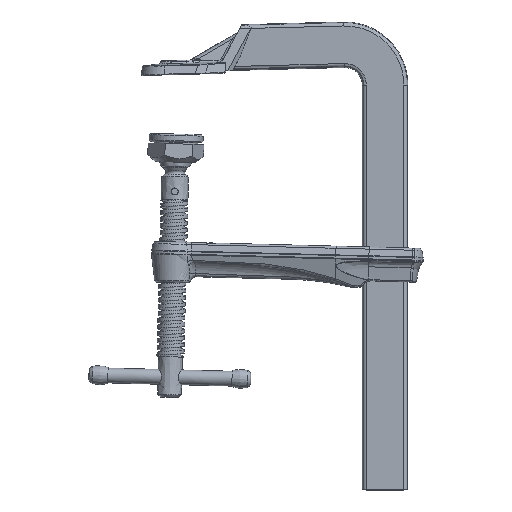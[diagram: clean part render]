
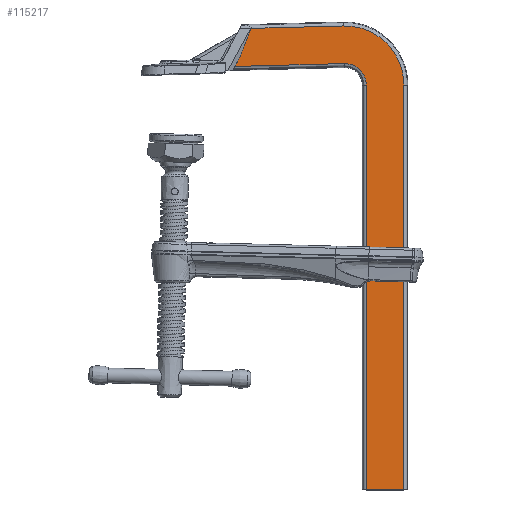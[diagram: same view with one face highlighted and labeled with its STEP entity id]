
A CAD part, front view. The second image highlights one B-rep face of the part: STEP entity #115217.
In plain terms, the highlighted free-form (B-spline) face has degree [1, 1] with [2, 2] control points.
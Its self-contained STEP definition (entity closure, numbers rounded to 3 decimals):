
#114976=CARTESIAN_POINT('',(-72.746,-6.294,9.385));
#114977=VERTEX_POINT('',#114976);
#114987=CARTESIAN_POINT('',(8.439,-6.294,11.511));
#114988=VERTEX_POINT('',#114987);
#114989=CARTESIAN_POINT('',(-72.746,-6.294,9.385));
#114990=CARTESIAN_POINT('',(8.439,-6.294,11.511));
#114991=B_SPLINE_CURVE_WITH_KNOTS('',1,(#114989,#114990),.POLYLINE_FORM.,.F.,.U.,(2,2),(0.234,0.864),.UNSPECIFIED.);
#114992=EDGE_CURVE('',#114977,#114988,#114991,.T.);
#115150=CARTESIAN_POINT('',(269.028,-6.294,-443.376));
#115151=CARTESIAN_POINT('',(-264.811,-6.294,-457.355));
#115152=CARTESIAN_POINT('',(255.049,-6.294,90.463));
#115153=CARTESIAN_POINT('',(-278.79,-6.294,76.484));
#115154=B_SPLINE_SURFACE_WITH_KNOTS('',1,1,((#115150,#115151),(#115152,#115153)),.PLANE_SURF.,.F.,.F.,.U.,(2,2),(2,2),(0.,1.),(0.,1.),.UNSPECIFIED.);
#115155=CARTESIAN_POINT('',(-60.681,-6.294,37.579));
#115156=VERTEX_POINT('',#115155);
#115157=CARTESIAN_POINT('',(-68.764,-6.294,16.719));
#115158=VERTEX_POINT('',#115157);
#115159=CARTESIAN_POINT('',(-60.681,-6.294,37.579));
#115160=CARTESIAN_POINT('',(-64.722,-6.294,27.149));
#115161=CARTESIAN_POINT('',(-68.764,-6.294,16.719));
#115162=B_SPLINE_CURVE_WITH_KNOTS('',2,(#115159,#115160,#115161),.UNSPECIFIED.,.F.,.U.,(3,3),(0.,0.995),.UNSPECIFIED.);
#115163=EDGE_CURVE('',#115156,#115158,#115162,.T.);
#115164=ORIENTED_EDGE('',*,*,#115163,.T.);
#115165=CARTESIAN_POINT('',(-68.764,-6.294,16.719));
#115166=CARTESIAN_POINT('',(-72.746,-6.294,9.385));
#115167=B_SPLINE_CURVE_WITH_KNOTS('',1,(#115165,#115166),.POLYLINE_FORM.,.F.,.U.,(2,2),(0.241,0.326),.UNSPECIFIED.);
#115168=EDGE_CURVE('',#115158,#114977,#115167,.T.);
#115169=ORIENTED_EDGE('',*,*,#115168,.T.);
#115170=ORIENTED_EDGE('',*,*,#114992,.T.);
#115171=CARTESIAN_POINT('',(24.795,-6.294,-4.422));
#115172=VERTEX_POINT('',#115171);
#115173=CARTESIAN_POINT('',(8.439,-6.294,11.511));
#115174=CARTESIAN_POINT('',(24.795,-6.294,11.939));
#115175=CARTESIAN_POINT('',(24.795,-6.294,-4.422));
#115176=(BOUNDED_CURVE()B_SPLINE_CURVE(2,(#115173,#115174,#115175),.CIRCULAR_ARC.,.F.,.U.)B_SPLINE_CURVE_WITH_KNOTS((3,3),(0.,1.),.UNSPECIFIED.)CURVE()GEOMETRIC_REPRESENTATION_ITEM()RATIONAL_B_SPLINE_CURVE((1.,0.698,1.))REPRESENTATION_ITEM(''));
#115177=EDGE_CURVE('',#114988,#115172,#115176,.T.);
#115178=ORIENTED_EDGE('',*,*,#115177,.T.);
#115179=CARTESIAN_POINT('',(24.795,-6.294,-304.422));
#115180=VERTEX_POINT('',#115179);
#115181=CARTESIAN_POINT('',(24.795,-6.294,-4.422));
#115182=CARTESIAN_POINT('',(24.795,-6.294,-304.422));
#115183=B_SPLINE_CURVE_WITH_KNOTS('',1,(#115181,#115182),.POLYLINE_FORM.,.F.,.U.,(2,2),(0.,0.75),.UNSPECIFIED.);
#115184=EDGE_CURVE('',#115172,#115180,#115183,.T.);
#115185=ORIENTED_EDGE('',*,*,#115184,.T.);
#115186=CARTESIAN_POINT('',(52.663,-6.294,-304.422));
#115187=VERTEX_POINT('',#115186);
#115188=CARTESIAN_POINT('',(24.795,-6.294,-304.422));
#115189=CARTESIAN_POINT('',(52.663,-6.294,-304.422));
#115190=B_SPLINE_CURVE_WITH_KNOTS('',1,(#115188,#115189),.POLYLINE_FORM.,.F.,.U.,(2,2),(0.,1.),.UNSPECIFIED.);
#115191=EDGE_CURVE('',#115180,#115187,#115190,.T.);
#115192=ORIENTED_EDGE('',*,*,#115191,.T.);
#115193=CARTESIAN_POINT('',(52.663,-6.294,-4.422));
#115194=VERTEX_POINT('',#115193);
#115195=CARTESIAN_POINT('',(52.663,-6.294,-304.422));
#115196=CARTESIAN_POINT('',(52.663,-6.294,-4.422));
#115197=B_SPLINE_CURVE_WITH_KNOTS('',1,(#115195,#115196),.POLYLINE_FORM.,.F.,.U.,(2,2),(0.25,1.),.UNSPECIFIED.);
#115198=EDGE_CURVE('',#115187,#115194,#115197,.T.);
#115199=ORIENTED_EDGE('',*,*,#115198,.T.);
#115200=CARTESIAN_POINT('',(7.71,-6.294,39.369));
#115201=VERTEX_POINT('',#115200);
#115202=CARTESIAN_POINT('',(52.663,-6.294,-4.422));
#115203=CARTESIAN_POINT('',(52.663,-6.294,14.06));
#115204=CARTESIAN_POINT('',(39.424,-6.294,26.957));
#115205=CARTESIAN_POINT('',(26.186,-6.294,39.853));
#115206=CARTESIAN_POINT('',(7.71,-6.294,39.369));
#115207=(BOUNDED_CURVE()B_SPLINE_CURVE(2,(#115202,#115203,#115204,#115205,#115206),.CIRCULAR_ARC.,.F.,.U.)B_SPLINE_CURVE_WITH_KNOTS((3,2,3),(0.,0.5,1.),.UNSPECIFIED.)CURVE()GEOMETRIC_REPRESENTATION_ITEM()RATIONAL_B_SPLINE_CURVE((1.,0.921,1.,0.921,1.))REPRESENTATION_ITEM(''));
#115208=EDGE_CURVE('',#115194,#115201,#115207,.T.);
#115209=ORIENTED_EDGE('',*,*,#115208,.T.);
#115210=CARTESIAN_POINT('',(7.71,-6.294,39.369));
#115211=CARTESIAN_POINT('',(-60.681,-6.294,37.579));
#115212=B_SPLINE_CURVE_WITH_KNOTS('',1,(#115210,#115211),.POLYLINE_FORM.,.F.,.U.,(2,2),(0.466,0.594),.UNSPECIFIED.);
#115213=EDGE_CURVE('',#115201,#115156,#115212,.T.);
#115214=ORIENTED_EDGE('',*,*,#115213,.T.);
#115215=EDGE_LOOP('',(#115164,#115169,#115170,#115178,#115185,#115192,#115199,#115209,#115214));
#115216=FACE_OUTER_BOUND('',#115215,.T.);
#115217=ADVANCED_FACE('',(#115216),#115154,.T.);
